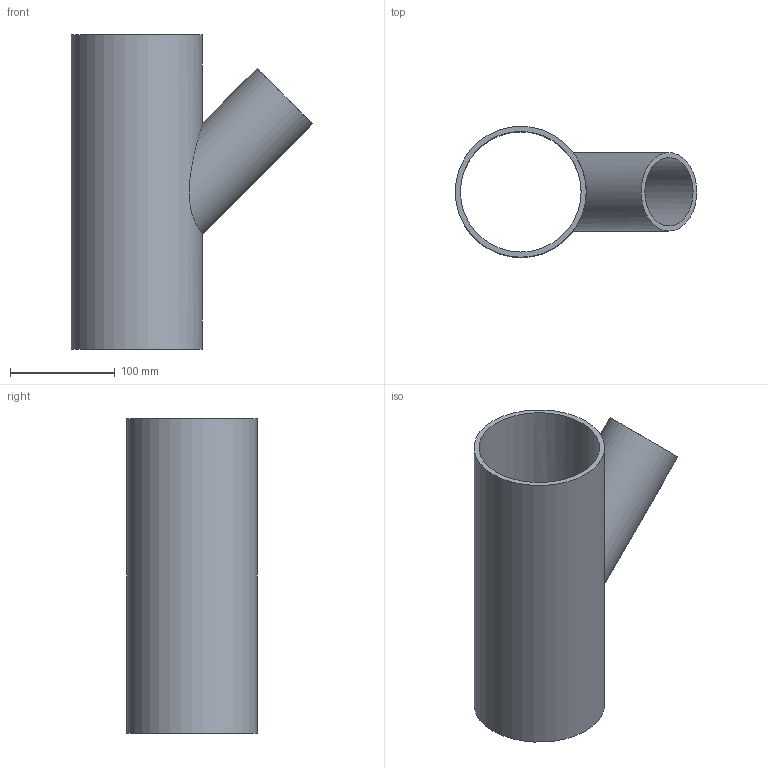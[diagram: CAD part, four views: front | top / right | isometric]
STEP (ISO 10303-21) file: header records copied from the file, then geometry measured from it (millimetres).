
FILE_DESCRIPTION(/* description */ (''),/* implementation_level */ '2;1');
FILE_NAME(/* name */ 'C:\Planerdaten\Export PLA\PRO_101557\stp\368125.stp',/* time_stamp */ '2021-09-30T15:07:13+02:00',/* author */ ('JANAN'),/* organization */ (''),/* preprocessor_version */ 'ST-DEVELOPER v16.13',/* originating_system */ 'Autodesk Inventor 2018',/* authorisation */ '');
FILE_SCHEMA (('AUTOMOTIVE_DESIGN { 1 0 10303 214 3 1 1 }'));
Length unit declared in the file: millimetre
Products named in the file (1): tmp67E0.tmp
Bounding box: 230.44 x 125 x 300 mm (x, y, z)
Volume: 658809.6 mm3; surface area: 273672.4 mm2
Topology: 1 solids, 1 shells, 7 faces, 17 edges, 12 vertices
Faces by surface type: cylinder 4, plane 3
Full cylindrical faces by diameter (mm): 65.2 x1, 75 x1, 115.2 x1, 125 x1
Entity records: 328 total; most frequent: CARTESIAN_POINT 150, DIRECTION 28, EDGE_LOOP 16, ORIENTED_EDGE 16, AXIS2_PLACEMENT_3D 14, FACE_BOUND 9, VERTEX_POINT 8, EDGE_CURVE 8
